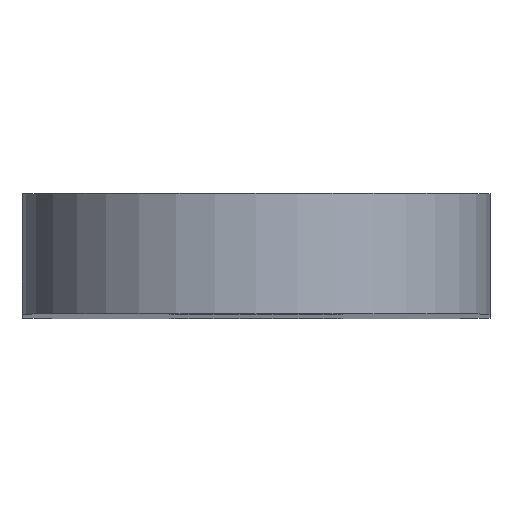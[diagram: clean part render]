
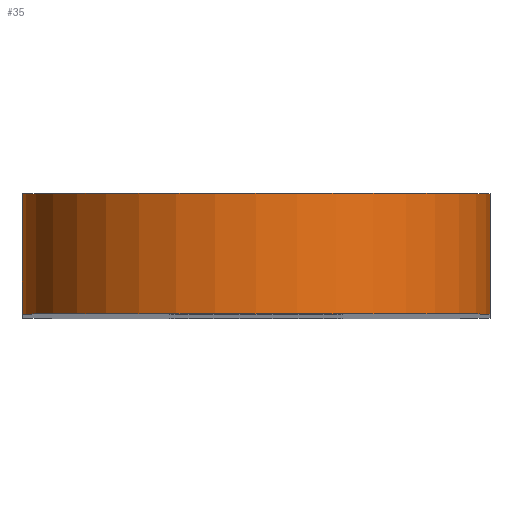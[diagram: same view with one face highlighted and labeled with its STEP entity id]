
A CAD part, top view. The second image highlights one B-rep face of the part: STEP entity #35.
In plain terms, the highlighted cylindrical face has radius 13.6 mm (diameter 27.2 mm), a partial arc.
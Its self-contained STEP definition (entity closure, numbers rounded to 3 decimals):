
#35 = ADVANCED_FACE('',(#36),#50,.T.);
#36 = FACE_BOUND('',#37,.F.);
#37 = EDGE_LOOP('',(#38,#73,#102,#130));
#38 = ORIENTED_EDGE('',*,*,#39,.T.);
#39 = EDGE_CURVE('',#40,#42,#44,.T.);
#40 = VERTEX_POINT('',#41);
#41 = CARTESIAN_POINT('',(13.6,0.,0.));
#42 = VERTEX_POINT('',#43);
#43 = CARTESIAN_POINT('',(13.6,-7.,0.));
#44 = SURFACE_CURVE('',#45,(#49,#61),.PCURVE_S1.);
#45 = LINE('',#46,#47);
#46 = CARTESIAN_POINT('',(13.6,0.,0.));
#47 = VECTOR('',#48,1.);
#48 = DIRECTION('',(0.,-1.,0.));
#49 = PCURVE('',#50,#55);
#50 = CYLINDRICAL_SURFACE('',#51,13.6);
#51 = AXIS2_PLACEMENT_3D('',#52,#53,#54);
#52 = CARTESIAN_POINT('',(0.,0.,0.));
#53 = DIRECTION('',(-0.,1.,-0.));
#54 = DIRECTION('',(1.,0.,0.));
#55 = DEFINITIONAL_REPRESENTATION('',(#56),#60);
#56 = LINE('',#57,#58);
#57 = CARTESIAN_POINT('',(-0.,0.));
#58 = VECTOR('',#59,1.);
#59 = DIRECTION('',(-0.,-1.));
#60 = ( GEOMETRIC_REPRESENTATION_CONTEXT(2) 
PARAMETRIC_REPRESENTATION_CONTEXT() REPRESENTATION_CONTEXT('2D SPACE',''
  ) );
#61 = PCURVE('',#62,#67);
#62 = PLANE('',#63);
#63 = AXIS2_PLACEMENT_3D('',#64,#65,#66);
#64 = CARTESIAN_POINT('',(13.6,0.,-140.));
#65 = DIRECTION('',(-1.,0.,0.));
#66 = DIRECTION('',(0.,0.,1.));
#67 = DEFINITIONAL_REPRESENTATION('',(#68),#72);
#68 = LINE('',#69,#70);
#69 = CARTESIAN_POINT('',(140.,0.));
#70 = VECTOR('',#71,1.);
#71 = DIRECTION('',(0.,-1.));
#72 = ( GEOMETRIC_REPRESENTATION_CONTEXT(2) 
PARAMETRIC_REPRESENTATION_CONTEXT() REPRESENTATION_CONTEXT('2D SPACE',''
  ) );
#73 = ORIENTED_EDGE('',*,*,#74,.T.);
#74 = EDGE_CURVE('',#42,#75,#77,.T.);
#75 = VERTEX_POINT('',#76);
#76 = CARTESIAN_POINT('',(-13.6,-7.,0.));
#77 = SURFACE_CURVE('',#78,(#83,#90),.PCURVE_S1.);
#78 = CIRCLE('',#79,13.6);
#79 = AXIS2_PLACEMENT_3D('',#80,#81,#82);
#80 = CARTESIAN_POINT('',(0.,-7.,0.));
#81 = DIRECTION('',(0.,-1.,0.));
#82 = DIRECTION('',(1.,0.,0.));
#83 = PCURVE('',#50,#84);
#84 = DEFINITIONAL_REPRESENTATION('',(#85),#89);
#85 = LINE('',#86,#87);
#86 = CARTESIAN_POINT('',(-0.,-7.));
#87 = VECTOR('',#88,1.);
#88 = DIRECTION('',(-1.,0.));
#89 = ( GEOMETRIC_REPRESENTATION_CONTEXT(2) 
PARAMETRIC_REPRESENTATION_CONTEXT() REPRESENTATION_CONTEXT('2D SPACE',''
  ) );
#90 = PCURVE('',#91,#96);
#91 = PLANE('',#92);
#92 = AXIS2_PLACEMENT_3D('',#93,#94,#95);
#93 = CARTESIAN_POINT('',(0.,-7.,0.));
#94 = DIRECTION('',(0.,-1.,0.));
#95 = DIRECTION('',(1.,0.,0.));
#96 = DEFINITIONAL_REPRESENTATION('',(#97),#101);
#97 = CIRCLE('',#98,13.6);
#98 = AXIS2_PLACEMENT_2D('',#99,#100);
#99 = CARTESIAN_POINT('',(0.,0.));
#100 = DIRECTION('',(1.,0.));
#101 = ( GEOMETRIC_REPRESENTATION_CONTEXT(2) 
PARAMETRIC_REPRESENTATION_CONTEXT() REPRESENTATION_CONTEXT('2D SPACE',''
  ) );
#102 = ORIENTED_EDGE('',*,*,#103,.F.);
#103 = EDGE_CURVE('',#104,#75,#106,.T.);
#104 = VERTEX_POINT('',#105);
#105 = CARTESIAN_POINT('',(-13.6,0.,0.));
#106 = SURFACE_CURVE('',#107,(#111,#118),.PCURVE_S1.);
#107 = LINE('',#108,#109);
#108 = CARTESIAN_POINT('',(-13.6,0.,0.));
#109 = VECTOR('',#110,1.);
#110 = DIRECTION('',(0.,-1.,0.));
#111 = PCURVE('',#50,#112);
#112 = DEFINITIONAL_REPRESENTATION('',(#113),#117);
#113 = LINE('',#114,#115);
#114 = CARTESIAN_POINT('',(-3.142,0.));
#115 = VECTOR('',#116,1.);
#116 = DIRECTION('',(-0.,-1.));
#117 = ( GEOMETRIC_REPRESENTATION_CONTEXT(2) 
PARAMETRIC_REPRESENTATION_CONTEXT() REPRESENTATION_CONTEXT('2D SPACE',''
  ) );
#118 = PCURVE('',#119,#124);
#119 = PLANE('',#120);
#120 = AXIS2_PLACEMENT_3D('',#121,#122,#123);
#121 = CARTESIAN_POINT('',(-13.6,0.,-140.));
#122 = DIRECTION('',(-1.,0.,0.));
#123 = DIRECTION('',(0.,0.,1.));
#124 = DEFINITIONAL_REPRESENTATION('',(#125),#129);
#125 = LINE('',#126,#127);
#126 = CARTESIAN_POINT('',(140.,0.));
#127 = VECTOR('',#128,1.);
#128 = DIRECTION('',(0.,-1.));
#129 = ( GEOMETRIC_REPRESENTATION_CONTEXT(2) 
PARAMETRIC_REPRESENTATION_CONTEXT() REPRESENTATION_CONTEXT('2D SPACE',''
  ) );
#130 = ORIENTED_EDGE('',*,*,#131,.F.);
#131 = EDGE_CURVE('',#40,#104,#132,.T.);
#132 = SURFACE_CURVE('',#133,(#138,#145),.PCURVE_S1.);
#133 = CIRCLE('',#134,13.6);
#134 = AXIS2_PLACEMENT_3D('',#135,#136,#137);
#135 = CARTESIAN_POINT('',(0.,0.,0.));
#136 = DIRECTION('',(0.,-1.,0.));
#137 = DIRECTION('',(1.,0.,0.));
#138 = PCURVE('',#50,#139);
#139 = DEFINITIONAL_REPRESENTATION('',(#140),#144);
#140 = LINE('',#141,#142);
#141 = CARTESIAN_POINT('',(-0.,0.));
#142 = VECTOR('',#143,1.);
#143 = DIRECTION('',(-1.,0.));
#144 = ( GEOMETRIC_REPRESENTATION_CONTEXT(2) 
PARAMETRIC_REPRESENTATION_CONTEXT() REPRESENTATION_CONTEXT('2D SPACE',''
  ) );
#145 = PCURVE('',#146,#151);
#146 = PLANE('',#147);
#147 = AXIS2_PLACEMENT_3D('',#148,#149,#150);
#148 = CARTESIAN_POINT('',(0.,0.,0.));
#149 = DIRECTION('',(0.,-1.,0.));
#150 = DIRECTION('',(1.,0.,0.));
#151 = DEFINITIONAL_REPRESENTATION('',(#152),#156);
#152 = CIRCLE('',#153,13.6);
#153 = AXIS2_PLACEMENT_2D('',#154,#155);
#154 = CARTESIAN_POINT('',(0.,0.));
#155 = DIRECTION('',(1.,0.));
#156 = ( GEOMETRIC_REPRESENTATION_CONTEXT(2) 
PARAMETRIC_REPRESENTATION_CONTEXT() REPRESENTATION_CONTEXT('2D SPACE',''
  ) );
